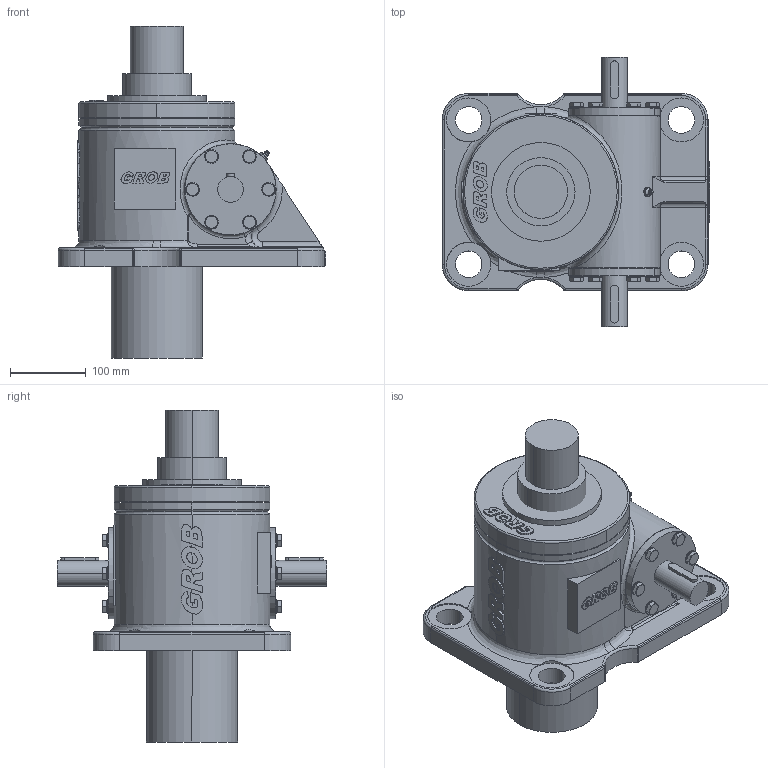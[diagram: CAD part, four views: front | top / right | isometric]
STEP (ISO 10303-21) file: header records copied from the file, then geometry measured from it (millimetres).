
FILE_DESCRIPTION(('STEP AP203'),'1');
FILE_NAME('mc25-gn-f-1f-ge-0100-0000-tr90x16-ab-mg0-o_ohne.stp','2023-12-18T13:33:00',('TraceParts'),('TraceParts S.A.'),'Spatial InterOp 3D',' ',' ');
FILE_SCHEMA(('CONFIG_CONTROL_DESIGN'));
Length unit declared in the file: millimetre
Products named in the file (1): 1
Bounding box: 352.5 x 355 x 437 mm (x, y, z)
Volume: 14531822.2 mm3; surface area: 634054.8 mm2
Topology: 3 solids, 3 shells, 2781 faces, 7574 edges, 4856 vertices
Faces by surface type: cylinder 1546, plane 862, bspline 233, cone 118, torus 16, sphere 6
Entity records: 91470 total; most frequent: CARTESIAN_POINT 18959, DIRECTION 16395, ORIENTED_EDGE 15124, EDGE_CURVE 7562, AXIS2_PLACEMENT_3D 6576, VERTEX_POINT 4856, CIRCLE 4006, LINE 3243
